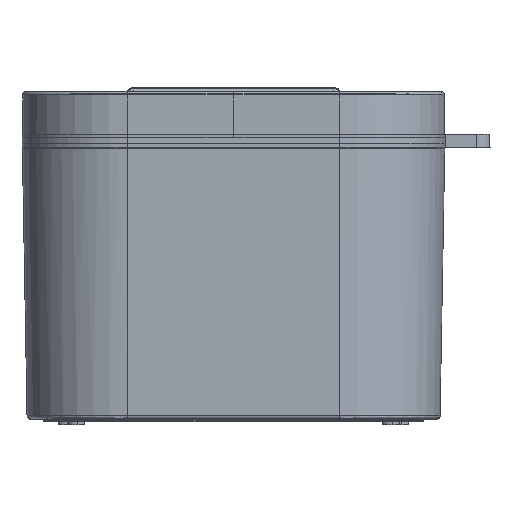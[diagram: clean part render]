
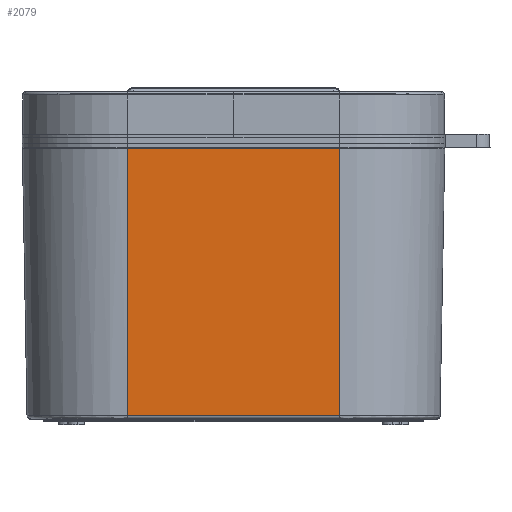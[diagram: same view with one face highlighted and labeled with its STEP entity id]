
A CAD part, left-side view. The second image highlights one B-rep face of the part: STEP entity #2079.
In plain terms, the highlighted planar face has unit normal (-1, 0, -0.018).
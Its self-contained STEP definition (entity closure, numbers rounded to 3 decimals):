
#1561=CARTESIAN_POINT('',(-899.858,-200.736,-107.314));
#1562=VERTEX_POINT('',#1561);
#1628=CARTESIAN_POINT('',(-899.858,200.736,-107.314));
#1629=VERTEX_POINT('',#1628);
#1630=CARTESIAN_POINT('',(-899.858,200.736,-107.314));
#1631=DIRECTION('',(0.0,-1.0,0.0));
#1632=VECTOR('',#1631,401.473);
#1633=LINE('',#1630,#1632);
#1634=EDGE_CURVE('',#1629,#1562,#1633,.T.);
#2037=CARTESIAN_POINT('',(-891.029,200.736,-613.147));
#2038=VERTEX_POINT('',#2037);
#2046=CARTESIAN_POINT('',(-899.858,200.736,-107.314));
#2047=DIRECTION('',(0.017,0.,-1.));
#2048=VECTOR('',#2047,505.91);
#2049=LINE('',#2046,#2048);
#2050=EDGE_CURVE('',#1629,#2038,#2049,.T.);
#2056=CARTESIAN_POINT('',(-900.01,-200.736,-98.632));
#2057=DIRECTION('',(-1.,0.,-0.017));
#2058=DIRECTION('',(0.0,1.0,0.0));
#2059=AXIS2_PLACEMENT_3D('',#2056,#2057,#2058);
#2060=PLANE('',#2059);
#2061=ORIENTED_EDGE('',*,*,#2050,.T.);
#2062=CARTESIAN_POINT('',(-891.029,-200.736,-613.147));
#2063=VERTEX_POINT('',#2062);
#2064=CARTESIAN_POINT('',(-891.029,200.736,-613.147));
#2065=DIRECTION('',(0.0,-1.0,0.0));
#2066=VECTOR('',#2065,401.473);
#2067=LINE('',#2064,#2066);
#2068=EDGE_CURVE('',#2038,#2063,#2067,.T.);
#2069=ORIENTED_EDGE('',*,*,#2068,.T.);
#2070=CARTESIAN_POINT('',(-899.858,-200.736,-107.314));
#2071=DIRECTION('',(0.017,0.,-1.));
#2072=VECTOR('',#2071,505.91);
#2073=LINE('',#2070,#2072);
#2074=EDGE_CURVE('',#1562,#2063,#2073,.T.);
#2075=ORIENTED_EDGE('',*,*,#2074,.F.);
#2076=ORIENTED_EDGE('',*,*,#1634,.F.);
#2077=EDGE_LOOP('',(#2061,#2069,#2075,#2076));
#2078=FACE_OUTER_BOUND('',#2077,.T.);
#2079=ADVANCED_FACE('',(#2078),#2060,.T.);
